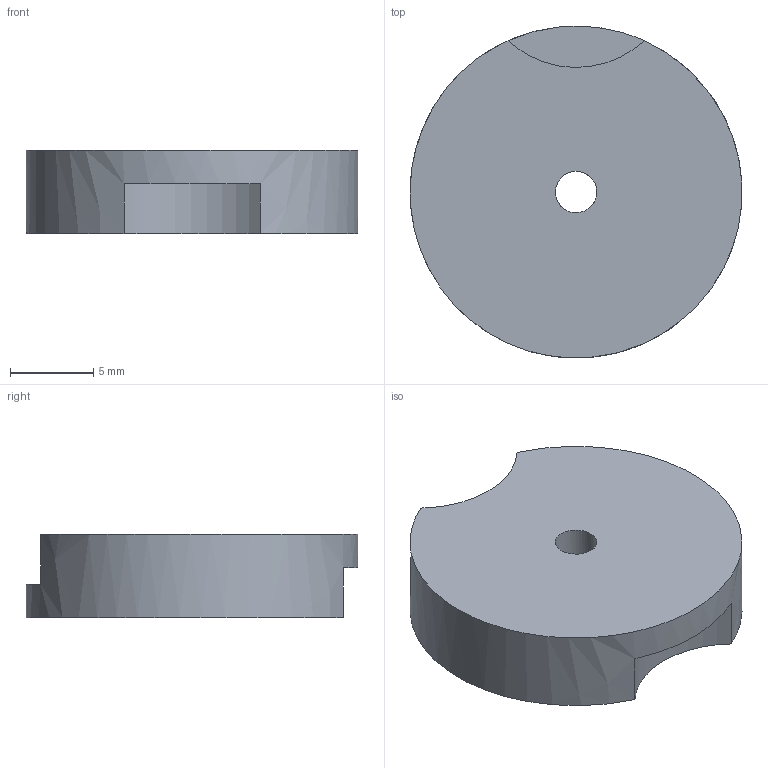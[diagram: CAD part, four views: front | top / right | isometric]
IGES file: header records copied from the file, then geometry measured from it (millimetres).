
Start section: C
Global section: file name: MOD20.igs; native system: By Siemens PLM Incorporated; preprocessor: XPlus GENERIC/IGES 18.0.17; author: Author; organization: Title; date: 20240726.163818; units: millimetre
Bounding box: 19.99 x 19.99 x 5 mm (x, y, z)
Volume: 1462.7 mm3; surface area: 982.9 mm2
Topology: 1 solids, 1 shells, 217 faces, 573 edges, 382 vertices
Faces by surface type: bspline 217
